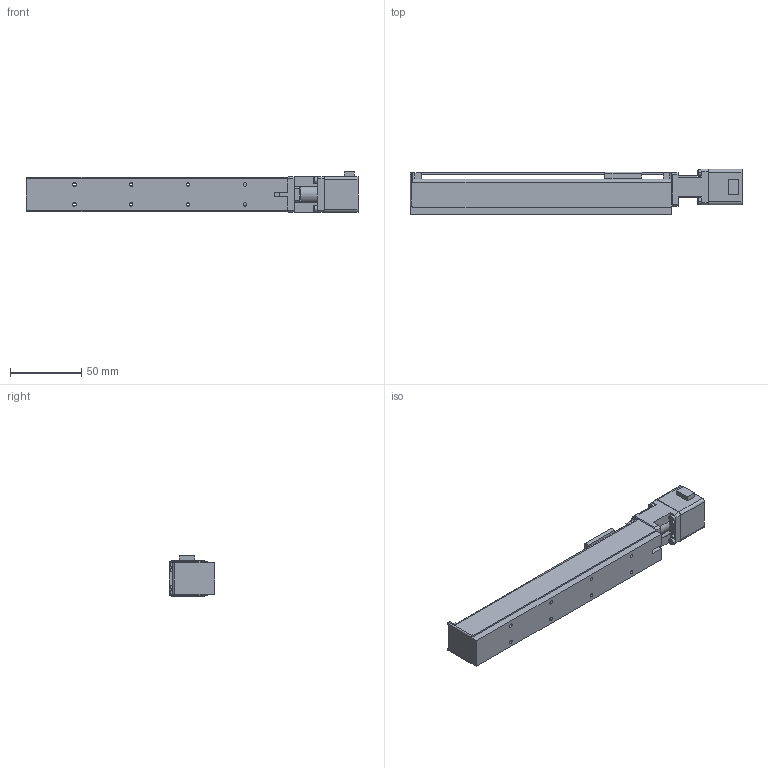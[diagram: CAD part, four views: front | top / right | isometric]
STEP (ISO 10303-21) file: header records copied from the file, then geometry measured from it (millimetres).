
FILE_DESCRIPTION (( 'STEP AP203' ), '1' );
FILE_NAME ('FAS-120-MR.STEP', '2015-08-25T05:00:48', ( '' ), ( '' ), 'SwSTEP 2.0', 'SolidWorks 2015', '' );
FILE_SCHEMA (( 'CONFIG_CONTROL_DESIGN' ));
Length unit declared in the file: millimetre
Products named in the file (1): FAS-120-MR
Bounding box: 233.5 x 32 x 28.5 mm (x, y, z)
Volume: 73995.6 mm3; surface area: 45471.5 mm2
Topology: 2 solids, 8 shells, 234 faces, 593 edges, 378 vertices
Faces by surface type: plane 128, cylinder 92, cone 12, sphere 2
Entity records: 7104 total; most frequent: DIRECTION 1231, CARTESIAN_POINT 1224, ORIENTED_EDGE 1174, EDGE_CURVE 587, AXIS2_PLACEMENT_3D 417, LINE 397, VECTOR 397, VERTEX_POINT 378
